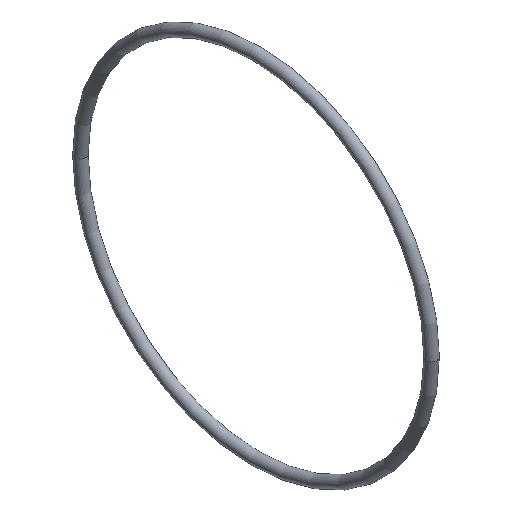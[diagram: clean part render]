
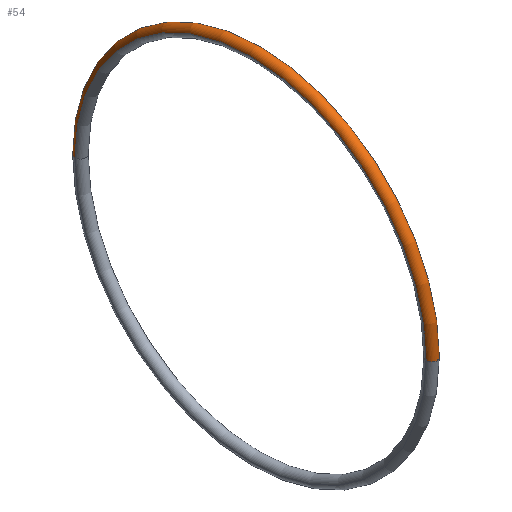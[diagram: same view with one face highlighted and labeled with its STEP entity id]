
A CAD part, isometric view. The second image highlights one B-rep face of the part: STEP entity #54.
In plain terms, the highlighted toroidal (fillet/blend) face has major radius 50.8 mm and minor radius 1.59 mm.
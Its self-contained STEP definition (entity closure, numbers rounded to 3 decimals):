
#54=ADVANCED_FACE('',(#58),#82,.T.);
#58=FACE_OUTER_BOUND('',#62,.F.);
#62=EDGE_LOOP('',(#66,#67,#68,#69));
#66=ORIENTED_EDGE('',*,*,#86,.T.);
#67=ORIENTED_EDGE('',*,*,#89,.F.);
#68=ORIENTED_EDGE('',*,*,#87,.F.);
#69=ORIENTED_EDGE('',*,*,#88,.F.);
#82=TOROIDAL_SURFACE('',#116,50.8,1.59);
#86=EDGE_CURVE('',#105,#104,#94,.T.);
#87=EDGE_CURVE('',#103,#102,#95,.T.);
#88=EDGE_CURVE('',#105,#103,#96,.T.);
#89=EDGE_CURVE('',#102,#104,#97,.T.);
#94=CIRCLE('',#108,50.8);
#95=CIRCLE('',#109,50.8);
#96=CIRCLE('',#110,1.59);
#97=CIRCLE('',#111,1.59);
#102=VERTEX_POINT('',#150);
#103=VERTEX_POINT('',#151);
#104=VERTEX_POINT('',#152);
#105=VERTEX_POINT('',#153);
#108=AXIS2_PLACEMENT_3D('',#154,#123,#124);
#109=AXIS2_PLACEMENT_3D('',#155,#125,#126);
#110=AXIS2_PLACEMENT_3D('',#156,#127,#128);
#111=AXIS2_PLACEMENT_3D('',#157,#129,#130);
#116=AXIS2_PLACEMENT_3D('',#162,#139,#140);
#123=DIRECTION('',(1.,0.,0.));
#124=DIRECTION('',(0.,1.,0.));
#125=DIRECTION('',(1.,0.,0.));
#126=DIRECTION('',(0.,1.,0.));
#127=DIRECTION('',(0.,0.,1.));
#128=DIRECTION('',(1.,0.,0.));
#129=DIRECTION('',(0.,0.,1.));
#130=DIRECTION('',(-1.,0.,0.));
#139=DIRECTION('',(1.,0.,0.));
#140=DIRECTION('',(0.,-1.,0.));
#150=CARTESIAN_POINT('',(-1.59,-50.8,0.));
#151=CARTESIAN_POINT('',(-1.59,50.8,0.));
#152=CARTESIAN_POINT('',(1.59,-50.8,0.));
#153=CARTESIAN_POINT('',(1.59,50.8,0.));
#154=CARTESIAN_POINT('',(1.59,0.,0.));
#155=CARTESIAN_POINT('',(-1.59,0.,0.));
#156=CARTESIAN_POINT('',(0.,50.8,0.));
#157=CARTESIAN_POINT('',(0.,-50.8,0.));
#162=CARTESIAN_POINT('',(0.,0.,0.));
